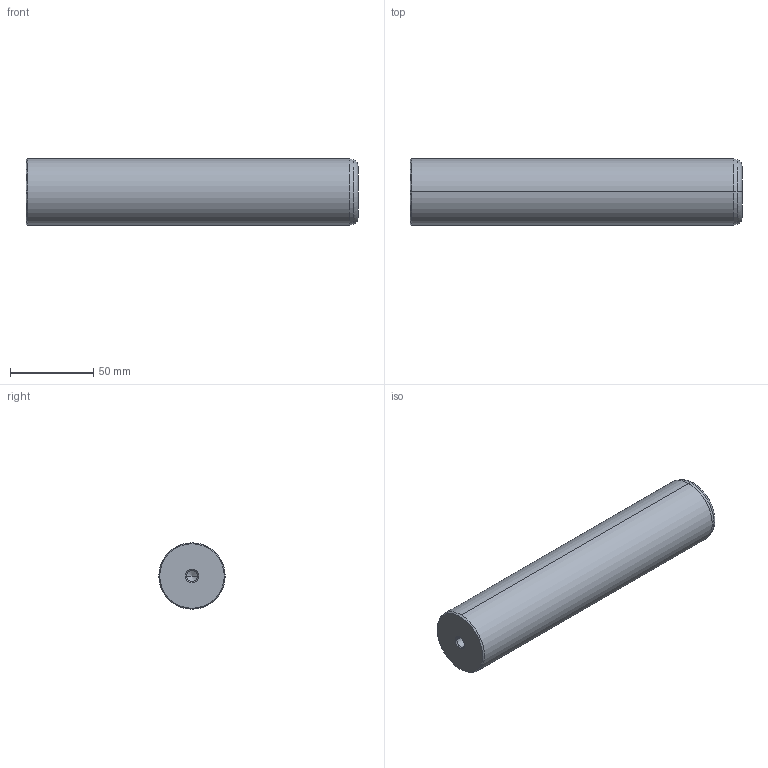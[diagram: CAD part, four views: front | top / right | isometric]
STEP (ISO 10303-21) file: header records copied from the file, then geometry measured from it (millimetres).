
FILE_DESCRIPTION(('CATIA V5 STEP Exchange'),'2;1');
FILE_NAME('C:\Users\Utente\Desktop\IO LAVORO\3D X SITO CF\X SITO\720\720-40x200.stp','2020-12-30T22:00:03+00:00',('none'),('none'),'CATIA Version 5 Release 20 GA (IN-10)','CATIA V5 STEP AP203','none');
FILE_SCHEMA(('CONFIG_CONTROL_DESIGN'));
Length unit declared in the file: millimetre
Products named in the file (1): 720-40x200
Bounding box: 200 x 40 x 40 mm (x, y, z)
Volume: 248953.6 mm3; surface area: 28316.9 mm2
Topology: 1 solids, 1 shells, 22 faces, 56 edges, 34 vertices
Faces by surface type: cone 12, cylinder 6, plane 2, torus 2
Entity records: 755 total; most frequent: CARTESIAN_POINT 216, ORIENTED_EDGE 104, DIRECTION 89, EDGE_CURVE 52, AXIS2_PLACEMENT_3D 50, VERTEX_POINT 34, CIRCLE 27, EDGE_LOOP 24
